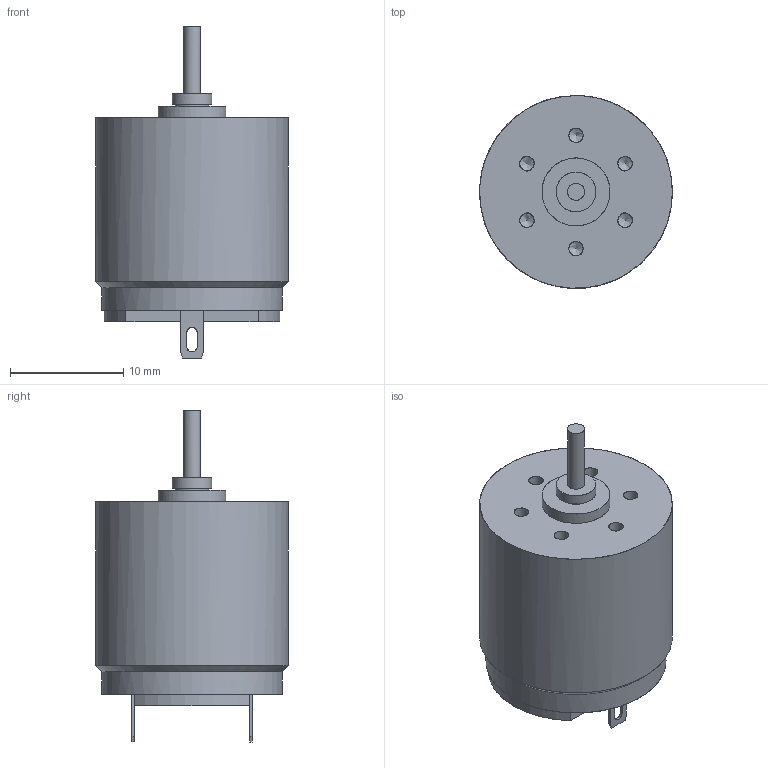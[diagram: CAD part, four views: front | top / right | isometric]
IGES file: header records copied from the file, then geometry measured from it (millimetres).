
Global section: file name: E:\WORK\MISC\DI\MOTORS\2011-11-25\1717TSR.igs; native system: NX V7.5; preprocessor: SIEMENS PLM Software NX 7.5; date: 20111221.230415; units: millimetre
Bounding box: 17 x 17 x 29.3 mm (x, y, z)
Surface area: 1533.6 mm2 (no closed solid volume)
Topology: 0 solids, 0 shells, 54 faces, 454 edges, 497 vertices
Faces by surface type: bspline 54
